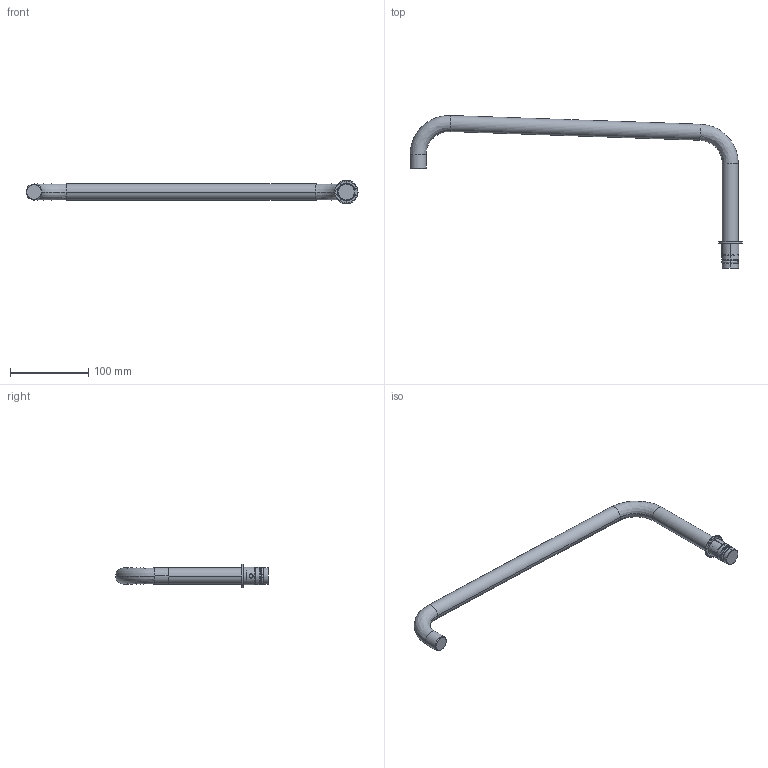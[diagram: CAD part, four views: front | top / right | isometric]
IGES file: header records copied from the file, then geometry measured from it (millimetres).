
Start section:  PTC IGES file: 508382.igs
Global section: file name: 508382.igs; native system: Creo Elements/Pro by Parametric Technology Corporation; preprocessor: 2011080; author: lff; organization: Unknown; date: 20120508.140108; units: millimetre
Bounding box: 425.25 x 195.89 x 30 mm (x, y, z)
Volume: 199244.4 mm3; surface area: 42739 mm2
Topology: 1 solids, 1 shells, 155 faces, 388 edges, 242 vertices
Faces by surface type: revolution 84, bspline 71
